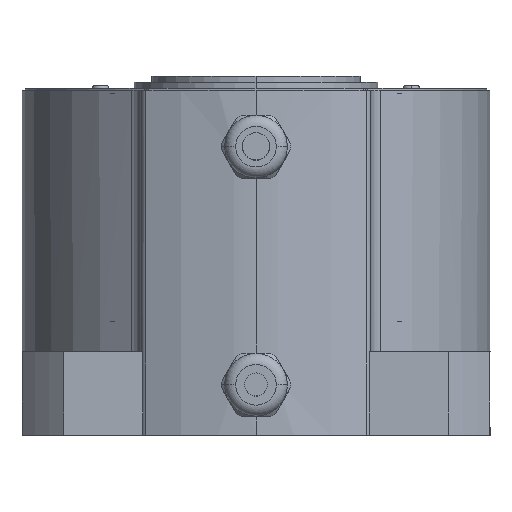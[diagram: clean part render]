
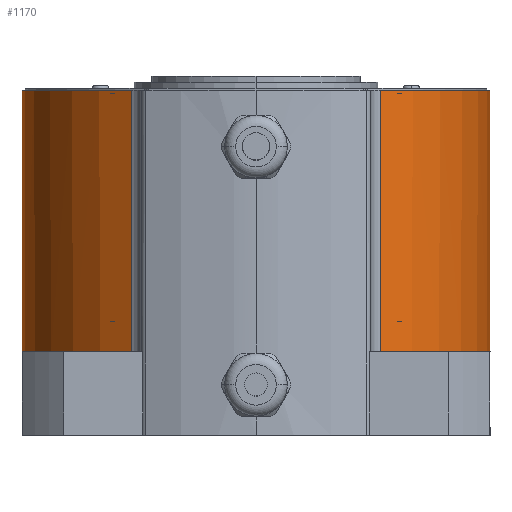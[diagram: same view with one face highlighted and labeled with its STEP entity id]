
A CAD part, top view. The second image highlights one B-rep face of the part: STEP entity #1170.
In plain terms, the highlighted cylindrical face has radius 56 mm (diameter 112 mm), a partial arc.
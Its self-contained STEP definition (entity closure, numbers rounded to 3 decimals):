
#94 = EDGE_LOOP ( 'NONE', ( #4460, #10036, #10524, #13956, #17033, #5568, #9823 ) ) ;
#630 = AXIS2_PLACEMENT_3D ( 'NONE', #14071, #12312, #10658 ) ;
#908 = CIRCLE ( 'NONE', #13216, 56. ) ;
#1170 = ADVANCED_FACE ( 'NONE', ( #20666 ), #2313, .T. ) ;
#1340 = DIRECTION ( 'NONE',  ( 0., 0., 1. ) ) ;
#2013 = DIRECTION ( 'NONE',  ( 0., 0., 1. ) ) ;
#2081 = DIRECTION ( 'NONE',  ( 0., -1., 0. ) ) ;
#2313 = CYLINDRICAL_SURFACE ( 'NONE', #3969, 56. ) ;
#3731 = AXIS2_PLACEMENT_3D ( 'NONE', #7669, #21061, #19396 ) ;
#3896 = CARTESIAN_POINT ( 'NONE',  ( 0., -62.5, 0. ) ) ;
#3969 = AXIS2_PLACEMENT_3D ( 'NONE', #5280, #8936, #7053 ) ;
#4073 = VECTOR ( 'NONE', #19054, 1000. ) ;
#4436 = VERTEX_POINT ( 'NONE', #7901 ) ;
#4460 = ORIENTED_EDGE ( 'NONE', *, *, #8723, .F. ) ;
#4768 = EDGE_CURVE ( 'NONE', #15651, #11811, #16069, .T. ) ;
#5280 = CARTESIAN_POINT ( 'NONE',  ( 0., -62.5, 0. ) ) ;
#5568 = ORIENTED_EDGE ( 'NONE', *, *, #9157, .T. ) ;
#6139 = EDGE_CURVE ( 'NONE', #9231, #4436, #7112, .T. ) ;
#6528 = EDGE_CURVE ( 'NONE', #11362, #8202, #908, .T. ) ;
#6620 = CARTESIAN_POINT ( 'NONE',  ( 56., -62.5, 0. ) ) ;
#6669 = CARTESIAN_POINT ( 'NONE',  ( 29.836, -62.5, 47.39 ) ) ;
#7053 = DIRECTION ( 'NONE',  ( 0., 0., 1. ) ) ;
#7112 = LINE ( 'NONE', #9101, #4073 ) ;
#7195 = DIRECTION ( 'NONE',  ( 0., 1., 0. ) ) ;
#7550 = CARTESIAN_POINT ( 'NONE',  ( 0., -62.5, 0. ) ) ;
#7669 = CARTESIAN_POINT ( 'NONE',  ( 0., -62.5, 0. ) ) ;
#7901 = CARTESIAN_POINT ( 'NONE',  ( -29.836, 0., 47.39 ) ) ;
#8202 = VERTEX_POINT ( 'NONE', #6620 ) ;
#8723 = EDGE_CURVE ( 'NONE', #12827, #4436, #10843, .T. ) ;
#8936 = DIRECTION ( 'NONE',  ( 0., 1., 0. ) ) ;
#9101 = CARTESIAN_POINT ( 'NONE',  ( -29.836, -62.5, 47.39 ) ) ;
#9157 = EDGE_CURVE ( 'NONE', #11811, #9231, #17226, .T. ) ;
#9231 = VERTEX_POINT ( 'NONE', #21663 ) ;
#9713 = DIRECTION ( 'NONE',  ( 0., 1., 0. ) ) ;
#9823 = ORIENTED_EDGE ( 'NONE', *, *, #6139, .T. ) ;
#10036 = ORIENTED_EDGE ( 'NONE', *, *, #19876, .T. ) ;
#10292 = CIRCLE ( 'NONE', #19825, 56. ) ;
#10356 = LINE ( 'NONE', #20655, #20472 ) ;
#10524 = ORIENTED_EDGE ( 'NONE', *, *, #6528, .T. ) ;
#10658 = DIRECTION ( 'NONE',  ( 0., 0., 1. ) ) ;
#10843 = CIRCLE ( 'NONE', #630, 56. ) ;
#10977 = DIRECTION ( 'NONE',  ( 0., 1., 0. ) ) ;
#11362 = VERTEX_POINT ( 'NONE', #6669 ) ;
#11373 = CARTESIAN_POINT ( 'NONE',  ( 0., -62.5, 0. ) ) ;
#11811 = VERTEX_POINT ( 'NONE', #17149 ) ;
#12312 = DIRECTION ( 'NONE',  ( 0., 1., 0. ) ) ;
#12827 = VERTEX_POINT ( 'NONE', #15601 ) ;
#13216 = AXIS2_PLACEMENT_3D ( 'NONE', #3896, #7195, #2013 ) ;
#13541 = CARTESIAN_POINT ( 'NONE',  ( 0., -62.5, -56. ) ) ;
#13956 = ORIENTED_EDGE ( 'NONE', *, *, #15187, .T. ) ;
#14071 = CARTESIAN_POINT ( 'NONE',  ( 0., 0., 0. ) ) ;
#15187 = EDGE_CURVE ( 'NONE', #8202, #15651, #10292, .T. ) ;
#15601 = CARTESIAN_POINT ( 'NONE',  ( 29.836, 0., 47.39 ) ) ;
#15651 = VERTEX_POINT ( 'NONE', #13541 ) ;
#16064 = DIRECTION ( 'NONE',  ( 0., 0., 1. ) ) ;
#16069 = CIRCLE ( 'NONE', #3731, 56. ) ;
#17033 = ORIENTED_EDGE ( 'NONE', *, *, #4768, .T. ) ;
#17149 = CARTESIAN_POINT ( 'NONE',  ( -56., -62.5, 0. ) ) ;
#17226 = CIRCLE ( 'NONE', #18994, 56. ) ;
#18994 = AXIS2_PLACEMENT_3D ( 'NONE', #11373, #9713, #1340 ) ;
#19054 = DIRECTION ( 'NONE',  ( 0., 1., 0. ) ) ;
#19396 = DIRECTION ( 'NONE',  ( 0., 0., 1. ) ) ;
#19825 = AXIS2_PLACEMENT_3D ( 'NONE', #7550, #10977, #16064 ) ;
#19876 = EDGE_CURVE ( 'NONE', #12827, #11362, #10356, .T. ) ;
#20472 = VECTOR ( 'NONE', #2081, 1000. ) ;
#20655 = CARTESIAN_POINT ( 'NONE',  ( 29.836, -62.5, 47.39 ) ) ;
#20666 = FACE_OUTER_BOUND ( 'NONE', #94, .T. ) ;
#21061 = DIRECTION ( 'NONE',  ( 0., 1., 0. ) ) ;
#21663 = CARTESIAN_POINT ( 'NONE',  ( -29.836, -62.5, 47.39 ) ) ;
